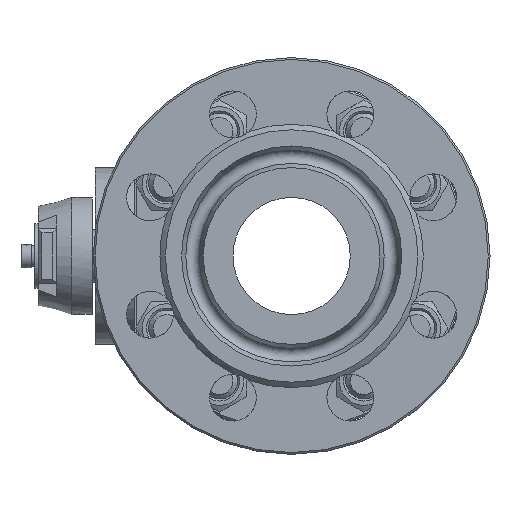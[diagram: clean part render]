
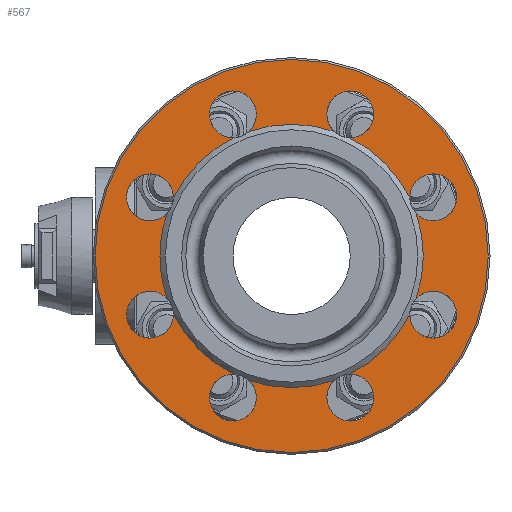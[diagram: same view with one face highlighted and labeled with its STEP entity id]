
A CAD part, left-side view. The second image highlights one B-rep face of the part: STEP entity #567.
In plain terms, the highlighted planar face has unit normal (-1, 0, 0).
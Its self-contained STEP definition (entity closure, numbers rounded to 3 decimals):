
#567=ADVANCED_FACE('',(#4476,#4478),#4480,.T.);
#4476=FACE_BOUND('',#4477,.T.);
#4477=EDGE_LOOP('',(#9729,#9730,#9731,#9732,#9733,#9734,#9735,#9736,#9737,#9738,
#9739,#9740,#9741,#9742,#9743,#9744,#9745,#9746,#9747,#9748,#9749,#9750,#9751,#9752,
#9753));
#4478=FACE_OUTER_BOUND('',#4479,.T.);
#4479=EDGE_LOOP('',(#9754));
#4480=PLANE('',#4481);
#4481=AXIS2_PLACEMENT_3D('',#4482,#4483,#4484);
#4482=CARTESIAN_POINT('',(-162.,0.,0.));
#4483=DIRECTION('',(-1.,0.,0.));
#4484=DIRECTION('',(0.,1.,0.));
#9729=ORIENTED_EDGE('',*,*,#12455,.T.);
#9730=ORIENTED_EDGE('',*,*,#12453,.T.);
#9731=ORIENTED_EDGE('',*,*,#12540,.T.);
#9732=ORIENTED_EDGE('',*,*,#12425,.T.);
#9733=ORIENTED_EDGE('',*,*,#12427,.T.);
#9734=ORIENTED_EDGE('',*,*,#12541,.T.);
#9735=ORIENTED_EDGE('',*,*,#12431,.T.);
#9736=ORIENTED_EDGE('',*,*,#12429,.T.);
#9737=ORIENTED_EDGE('',*,*,#12542,.T.);
#9738=ORIENTED_EDGE('',*,*,#12435,.T.);
#9739=ORIENTED_EDGE('',*,*,#12433,.T.);
#9740=ORIENTED_EDGE('',*,*,#12543,.T.);
#9741=ORIENTED_EDGE('',*,*,#12544,.T.);
#9742=ORIENTED_EDGE('',*,*,#12439,.T.);
#9743=ORIENTED_EDGE('',*,*,#12437,.T.);
#9744=ORIENTED_EDGE('',*,*,#12545,.T.);
#9745=ORIENTED_EDGE('',*,*,#12443,.T.);
#9746=ORIENTED_EDGE('',*,*,#12441,.T.);
#9747=ORIENTED_EDGE('',*,*,#12546,.T.);
#9748=ORIENTED_EDGE('',*,*,#12447,.T.);
#9749=ORIENTED_EDGE('',*,*,#12445,.T.);
#9750=ORIENTED_EDGE('',*,*,#12547,.T.);
#9751=ORIENTED_EDGE('',*,*,#12451,.T.);
#9752=ORIENTED_EDGE('',*,*,#12449,.T.);
#9753=ORIENTED_EDGE('',*,*,#12548,.T.);
#9754=ORIENTED_EDGE('',*,*,#12549,.F.);
#12425=EDGE_CURVE('',#15097,#15095,#15098,.F.);
#12427=EDGE_CURVE('',#15095,#15099,#15101,.F.);
#12429=EDGE_CURVE('',#15105,#15102,#15106,.F.);
#12431=EDGE_CURVE('',#15103,#15105,#15108,.F.);
#12433=EDGE_CURVE('',#15112,#15109,#15113,.F.);
#12435=EDGE_CURVE('',#15110,#15112,#15115,.F.);
#12437=EDGE_CURVE('',#15119,#15116,#15120,.F.);
#12439=EDGE_CURVE('',#15117,#15119,#15122,.F.);
#12441=EDGE_CURVE('',#15126,#15123,#15127,.F.);
#12443=EDGE_CURVE('',#15124,#15126,#15129,.F.);
#12445=EDGE_CURVE('',#15133,#15130,#15134,.F.);
#12447=EDGE_CURVE('',#15131,#15133,#15136,.F.);
#12449=EDGE_CURVE('',#15140,#15137,#15141,.F.);
#12451=EDGE_CURVE('',#15138,#15140,#15143,.F.);
#12453=EDGE_CURVE('',#15147,#15144,#15148,.F.);
#12455=EDGE_CURVE('',#15145,#15147,#15150,.F.);
#12540=EDGE_CURVE('',#15144,#15097,#15298,.T.);
#12541=EDGE_CURVE('',#15099,#15103,#15299,.T.);
#12542=EDGE_CURVE('',#15102,#15110,#15300,.T.);
#12543=EDGE_CURVE('',#15109,#15301,#15302,.T.);
#12544=EDGE_CURVE('',#15301,#15117,#15303,.T.);
#12545=EDGE_CURVE('',#15116,#15124,#15304,.T.);
#12546=EDGE_CURVE('',#15123,#15131,#15305,.T.);
#12547=EDGE_CURVE('',#15130,#15138,#15306,.T.);
#12548=EDGE_CURVE('',#15137,#15145,#15307,.T.);
#12549=EDGE_CURVE('',#15308,#15308,#15309,.T.);
#15095=VERTEX_POINT('',#31878);
#15097=VERTEX_POINT('',#31882);
#15098=CIRCLE('',#31883,13.);
#15099=VERTEX_POINT('',#31887);
#15101=CIRCLE('',#31947,13.);
#15102=VERTEX_POINT('',#31951);
#15103=VERTEX_POINT('',#31952);
#15105=VERTEX_POINT('',#32012);
#15106=CIRCLE('',#32013,13.);
#15108=CIRCLE('',#32020,13.);
#15109=VERTEX_POINT('',#32024);
#15110=VERTEX_POINT('',#32025);
#15112=VERTEX_POINT('',#32085);
#15113=CIRCLE('',#32086,13.);
#15115=CIRCLE('',#32093,13.);
#15116=VERTEX_POINT('',#32097);
#15117=VERTEX_POINT('',#32098);
#15119=VERTEX_POINT('',#32158);
#15120=CIRCLE('',#32159,13.);
#15122=CIRCLE('',#32166,13.);
#15123=VERTEX_POINT('',#32170);
#15124=VERTEX_POINT('',#32171);
#15126=VERTEX_POINT('',#32231);
#15127=CIRCLE('',#32232,13.);
#15129=CIRCLE('',#32239,13.);
#15130=VERTEX_POINT('',#32243);
#15131=VERTEX_POINT('',#32244);
#15133=VERTEX_POINT('',#32304);
#15134=CIRCLE('',#32305,13.);
#15136=CIRCLE('',#32312,13.);
#15137=VERTEX_POINT('',#32316);
#15138=VERTEX_POINT('',#32317);
#15140=VERTEX_POINT('',#32377);
#15141=CIRCLE('',#32378,13.);
#15143=CIRCLE('',#32385,13.);
#15144=VERTEX_POINT('',#32389);
#15145=VERTEX_POINT('',#32390);
#15147=VERTEX_POINT('',#32450);
#15148=CIRCLE('',#32451,13.);
#15150=CIRCLE('',#32458,13.);
#15298=CIRCLE('',#34326,73.);
#15299=CIRCLE('',#34330,73.);
#15300=CIRCLE('',#34334,73.);
#15301=VERTEX_POINT('',#34338);
#15302=CIRCLE('',#34339,73.);
#15303=CIRCLE('',#34343,73.);
#15304=CIRCLE('',#34347,73.);
#15305=CIRCLE('',#34351,73.);
#15306=CIRCLE('',#34355,73.);
#15307=CIRCLE('',#34359,73.);
#15308=VERTEX_POINT('',#34363);
#15309=CIRCLE('',#34364,109.);
#31878=CARTESIAN_POINT('',(-162.,-32.528,-91.53));
#31882=CARTESIAN_POINT('',(-162.,-32.158,-65.535));
#31883=AXIS2_PLACEMENT_3D('',#31884,#31885,#31886);
#31884=CARTESIAN_POINT('',(-162.,-32.528,-78.53));
#31885=DIRECTION('',(-1.,0.,-0.));
#31886=DIRECTION('',(0.,0.,-1.));
#31887=CARTESIAN_POINT('',(-162.,-23.601,-69.08));
#31947=AXIS2_PLACEMENT_3D('',#31948,#31949,#31950);
#31948=CARTESIAN_POINT('',(-162.,-32.528,-78.53));
#31949=DIRECTION('',(-1.,0.,-0.));
#31950=DIRECTION('',(0.,0.687,0.727));
#31951=CARTESIAN_POINT('',(-162.,32.158,-65.535));
#31952=CARTESIAN_POINT('',(-162.,23.601,-69.08));
#32012=CARTESIAN_POINT('',(-162.,41.72,-87.722));
#32013=AXIS2_PLACEMENT_3D('',#32014,#32015,#32016);
#32014=CARTESIAN_POINT('',(-162.,32.528,-78.53));
#32015=DIRECTION('',(-1.,0.,-0.));
#32016=DIRECTION('',(0.,-0.028,1.));
#32020=AXIS2_PLACEMENT_3D('',#32021,#32022,#32023);
#32021=CARTESIAN_POINT('',(-162.,32.528,-78.53));
#32022=DIRECTION('',(-1.,0.,-0.));
#32023=DIRECTION('',(0.,0.707,-0.707));
#32024=CARTESIAN_POINT('',(-162.,69.08,-23.601));
#32025=CARTESIAN_POINT('',(-162.,65.535,-32.158));
#32085=CARTESIAN_POINT('',(-162.,91.53,-32.528));
#32086=AXIS2_PLACEMENT_3D('',#32087,#32088,#32089);
#32087=CARTESIAN_POINT('',(-162.,78.53,-32.528));
#32088=DIRECTION('',(-1.,0.,0.));
#32089=DIRECTION('',(0.,-0.727,0.687));
#32093=AXIS2_PLACEMENT_3D('',#32094,#32095,#32096);
#32094=CARTESIAN_POINT('',(-162.,78.53,-32.528));
#32095=DIRECTION('',(-1.,0.,0.));
#32096=DIRECTION('',(0.,1.,0.));
#32097=CARTESIAN_POINT('',(-162.,65.535,32.158));
#32098=CARTESIAN_POINT('',(-162.,69.08,23.601));
#32158=CARTESIAN_POINT('',(-162.,87.722,41.72));
#32159=AXIS2_PLACEMENT_3D('',#32160,#32161,#32162);
#32160=CARTESIAN_POINT('',(-162.,78.53,32.528));
#32161=DIRECTION('',(-1.,0.,0.));
#32162=DIRECTION('',(0.,-1.,-0.028));
#32166=AXIS2_PLACEMENT_3D('',#32167,#32168,#32169);
#32167=CARTESIAN_POINT('',(-162.,78.53,32.528));
#32168=DIRECTION('',(-1.,0.,0.));
#32169=DIRECTION('',(0.,0.707,0.707));
#32170=CARTESIAN_POINT('',(-162.,23.601,69.08));
#32171=CARTESIAN_POINT('',(-162.,32.158,65.535));
#32231=CARTESIAN_POINT('',(-162.,32.528,91.53));
#32232=AXIS2_PLACEMENT_3D('',#32233,#32234,#32235);
#32233=CARTESIAN_POINT('',(-162.,32.528,78.53));
#32234=DIRECTION('',(-1.,0.,0.));
#32235=DIRECTION('',(0.,-0.687,-0.727));
#32239=AXIS2_PLACEMENT_3D('',#32240,#32241,#32242);
#32240=CARTESIAN_POINT('',(-162.,32.528,78.53));
#32241=DIRECTION('',(-1.,0.,0.));
#32242=DIRECTION('',(0.,0.,1.));
#32243=CARTESIAN_POINT('',(-162.,-32.158,65.535));
#32244=CARTESIAN_POINT('',(-162.,-23.601,69.08));
#32304=CARTESIAN_POINT('',(-162.,-41.72,87.722));
#32305=AXIS2_PLACEMENT_3D('',#32306,#32307,#32308);
#32306=CARTESIAN_POINT('',(-162.,-32.528,78.53));
#32307=DIRECTION('',(-1.,0.,0.));
#32308=DIRECTION('',(0.,0.028,-1.));
#32312=AXIS2_PLACEMENT_3D('',#32313,#32314,#32315);
#32313=CARTESIAN_POINT('',(-162.,-32.528,78.53));
#32314=DIRECTION('',(-1.,0.,0.));
#32315=DIRECTION('',(0.,-0.707,0.707));
#32316=CARTESIAN_POINT('',(-162.,-69.08,23.601));
#32317=CARTESIAN_POINT('',(-162.,-65.535,32.158));
#32377=CARTESIAN_POINT('',(-162.,-91.53,32.528));
#32378=AXIS2_PLACEMENT_3D('',#32379,#32380,#32381);
#32379=CARTESIAN_POINT('',(-162.,-78.53,32.528));
#32380=DIRECTION('',(-1.,-0.,0.));
#32381=DIRECTION('',(0.,0.727,-0.687));
#32385=AXIS2_PLACEMENT_3D('',#32386,#32387,#32388);
#32386=CARTESIAN_POINT('',(-162.,-78.53,32.528));
#32387=DIRECTION('',(-1.,-0.,0.));
#32388=DIRECTION('',(0.,-1.,0.));
#32389=CARTESIAN_POINT('',(-162.,-65.535,-32.158));
#32390=CARTESIAN_POINT('',(-162.,-69.08,-23.601));
#32450=CARTESIAN_POINT('',(-162.,-87.722,-41.72));
#32451=AXIS2_PLACEMENT_3D('',#32452,#32453,#32454);
#32452=CARTESIAN_POINT('',(-162.,-78.53,-32.528));
#32453=DIRECTION('',(-1.,0.,-0.));
#32454=DIRECTION('',(0.,1.,0.028));
#32458=AXIS2_PLACEMENT_3D('',#32459,#32460,#32461);
#32459=CARTESIAN_POINT('',(-162.,-78.53,-32.528));
#32460=DIRECTION('',(-1.,0.,-0.));
#32461=DIRECTION('',(0.,-0.707,-0.707));
#34326=AXIS2_PLACEMENT_3D('',#34327,#34328,#34329);
#34327=CARTESIAN_POINT('',(-162.,0.,0.));
#34328=DIRECTION('',(1.,0.,0.));
#34329=DIRECTION('',(0.,-0.898,-0.441));
#34330=AXIS2_PLACEMENT_3D('',#34331,#34332,#34333);
#34331=CARTESIAN_POINT('',(-162.,0.,0.));
#34332=DIRECTION('',(1.,0.,0.));
#34333=DIRECTION('',(0.,-0.323,-0.946));
#34334=AXIS2_PLACEMENT_3D('',#34335,#34336,#34337);
#34335=CARTESIAN_POINT('',(-162.,0.,0.));
#34336=DIRECTION('',(1.,0.,0.));
#34337=DIRECTION('',(0.,0.441,-0.898));
#34338=CARTESIAN_POINT('',(-162.,73.,0.));
#34339=AXIS2_PLACEMENT_3D('',#34340,#34341,#34342);
#34340=CARTESIAN_POINT('',(-162.,0.,0.));
#34341=DIRECTION('',(1.,0.,0.));
#34342=DIRECTION('',(0.,0.946,-0.323));
#34343=AXIS2_PLACEMENT_3D('',#34344,#34345,#34346);
#34344=CARTESIAN_POINT('',(-162.,0.,0.));
#34345=DIRECTION('',(1.,0.,0.));
#34346=DIRECTION('',(0.,1.,0.));
#34347=AXIS2_PLACEMENT_3D('',#34348,#34349,#34350);
#34348=CARTESIAN_POINT('',(-162.,0.,0.));
#34349=DIRECTION('',(1.,0.,0.));
#34350=DIRECTION('',(0.,0.898,0.441));
#34351=AXIS2_PLACEMENT_3D('',#34352,#34353,#34354);
#34352=CARTESIAN_POINT('',(-162.,0.,0.));
#34353=DIRECTION('',(1.,0.,0.));
#34354=DIRECTION('',(0.,0.323,0.946));
#34355=AXIS2_PLACEMENT_3D('',#34356,#34357,#34358);
#34356=CARTESIAN_POINT('',(-162.,0.,0.));
#34357=DIRECTION('',(1.,0.,0.));
#34358=DIRECTION('',(0.,-0.441,0.898));
#34359=AXIS2_PLACEMENT_3D('',#34360,#34361,#34362);
#34360=CARTESIAN_POINT('',(-162.,0.,0.));
#34361=DIRECTION('',(1.,0.,0.));
#34362=DIRECTION('',(0.,-0.946,0.323));
#34363=CARTESIAN_POINT('',(-162.,109.,0.));
#34364=AXIS2_PLACEMENT_3D('',#34365,#34366,#34367);
#34365=CARTESIAN_POINT('',(-162.,0.,0.));
#34366=DIRECTION('',(1.,-0.,-0.));
#34367=DIRECTION('',(0.,1.,0.));
